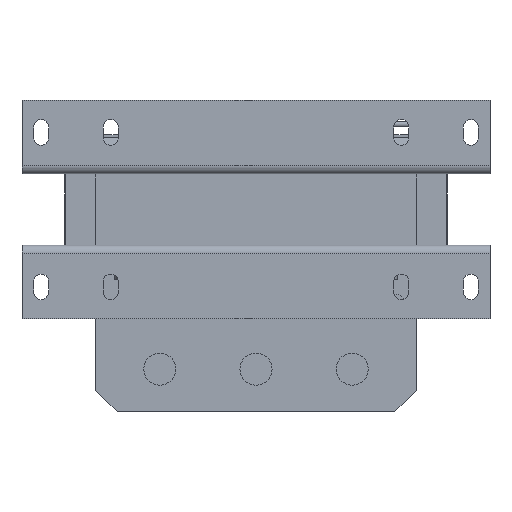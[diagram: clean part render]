
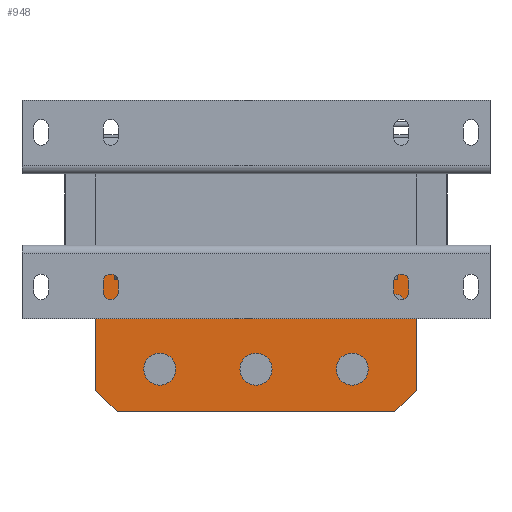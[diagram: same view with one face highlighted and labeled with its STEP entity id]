
A CAD part, front view. The second image highlights one B-rep face of the part: STEP entity #948.
In plain terms, the highlighted planar face has unit normal (0, -1, 0).
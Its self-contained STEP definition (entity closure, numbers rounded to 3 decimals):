
#102 = EDGE_CURVE ( 'NONE', #17741, #21113, #20192, .T. ) ;
#948 = ADVANCED_FACE ( 'NONE', ( #22527, #14647, #5136, #22765, #5377 ), #13016, .F. ) ;
#1091 = EDGE_CURVE ( 'NONE', #14298, #21985, #24643, .T. ) ;
#1113 = VECTOR ( 'NONE', #4612, 1000. ) ;
#1212 = EDGE_CURVE ( 'NONE', #3287, #6979, #24525, .T. ) ;
#1643 = ORIENTED_EDGE ( 'NONE', *, *, #20117, .F. ) ;
#1772 = EDGE_CURVE ( 'NONE', #24494, #21520, #10511, .T. ) ;
#1883 = DIRECTION ( 'NONE',  ( 0., 0., 1. ) ) ;
#2372 = DIRECTION ( 'NONE',  ( 0., 1., 0. ) ) ;
#2458 = DIRECTION ( 'NONE',  ( 0.707, 0., -0.707 ) ) ;
#2567 = EDGE_CURVE ( 'NONE', #17165, #14494, #14549, .T. ) ;
#2657 = DIRECTION ( 'NONE',  ( 0., 0., 1. ) ) ;
#3287 = VERTEX_POINT ( 'NONE', #4903 ) ;
#3447 = CARTESIAN_POINT ( 'NONE',  ( -65., 31., -94.65 ) ) ;
#3512 = CARTESIAN_POINT ( 'NONE',  ( 75., 31., -19.65 ) ) ;
#3589 = VERTEX_POINT ( 'NONE', #23025 ) ;
#3646 = AXIS2_PLACEMENT_3D ( 'NONE', #16301, #22076, #23964 ) ;
#3762 = AXIS2_PLACEMENT_3D ( 'NONE', #8008, #15617, #9637 ) ;
#3995 = CARTESIAN_POINT ( 'NONE',  ( -75., 31., -23.65 ) ) ;
#4081 = EDGE_CURVE ( 'NONE', #3589, #17386, #18209, .T. ) ;
#4242 = CARTESIAN_POINT ( 'NONE',  ( 65., 31., -44.65 ) ) ;
#4513 = AXIS2_PLACEMENT_3D ( 'NONE', #22356, #18345, #12237 ) ;
#4612 = DIRECTION ( 'NONE',  ( 0.707, 0., 0.707 ) ) ;
#4614 = ORIENTED_EDGE ( 'NONE', *, *, #102, .T. ) ;
#4734 = LINE ( 'NONE', #14365, #1113 ) ;
#4903 = CARTESIAN_POINT ( 'NONE',  ( 75., 31., -23.65 ) ) ;
#5131 = DIRECTION ( 'NONE',  ( 0., 0., -1. ) ) ;
#5136 = FACE_BOUND ( 'NONE', #19090, .T. ) ;
#5165 = EDGE_CURVE ( 'NONE', #3589, #6979, #4734, .T. ) ;
#5177 = DIRECTION ( 'NONE',  ( -1., 0., 0. ) ) ;
#5181 = CARTESIAN_POINT ( 'NONE',  ( -45., 31., -82.15 ) ) ;
#5377 = FACE_OUTER_BOUND ( 'NONE', #15105, .T. ) ;
#6049 = CIRCLE ( 'NONE', #9252, 7.5 ) ;
#6290 = DIRECTION ( 'NONE',  ( 0., -1., 0. ) ) ;
#6538 = CARTESIAN_POINT ( 'NONE',  ( -45., 31., -74.65 ) ) ;
#6578 = CARTESIAN_POINT ( 'NONE',  ( -75., 31., -19.65 ) ) ;
#6949 = DIRECTION ( 'NONE',  ( 0., 0., -1. ) ) ;
#6979 = VERTEX_POINT ( 'NONE', #19316 ) ;
#6990 = ORIENTED_EDGE ( 'NONE', *, *, #2567, .F. ) ;
#7266 = EDGE_LOOP ( 'NONE', ( #16505, #15352 ) ) ;
#7350 = DIRECTION ( 'NONE',  ( 0., -1., 0. ) ) ;
#8008 = CARTESIAN_POINT ( 'NONE',  ( -45., 31., -74.65 ) ) ;
#8335 = CARTESIAN_POINT ( 'NONE',  ( 69.33, 31., -42.15 ) ) ;
#8433 = ORIENTED_EDGE ( 'NONE', *, *, #17166, .T. ) ;
#8606 = DIRECTION ( 'NONE',  ( -1., 0., 0. ) ) ;
#9236 = ORIENTED_EDGE ( 'NONE', *, *, #5165, .T. ) ;
#9252 = AXIS2_PLACEMENT_3D ( 'NONE', #15678, #12196, #10316 ) ;
#9616 = ORIENTED_EDGE ( 'NONE', *, *, #1772, .F. ) ;
#9637 = DIRECTION ( 'NONE',  ( 0., 0., 1. ) ) ;
#9708 = AXIS2_PLACEMENT_3D ( 'NONE', #18293, #10800, #12312 ) ;
#9741 = ORIENTED_EDGE ( 'NONE', *, *, #1212, .F. ) ;
#10023 = ORIENTED_EDGE ( 'NONE', *, *, #13734, .F. ) ;
#10226 = CARTESIAN_POINT ( 'NONE',  ( 75., 31., -94.65 ) ) ;
#10316 = DIRECTION ( 'NONE',  ( 0., 0., 1. ) ) ;
#10394 = ORIENTED_EDGE ( 'NONE', *, *, #14208, .T. ) ;
#10511 = CIRCLE ( 'NONE', #9708, 7.5 ) ;
#10739 = CARTESIAN_POINT ( 'NONE',  ( 45., 31., -67.15 ) ) ;
#10800 = DIRECTION ( 'NONE',  ( 0., -1., 0. ) ) ;
#10893 = DIRECTION ( 'NONE',  ( 0., 1., 0. ) ) ;
#11250 = EDGE_LOOP ( 'NONE', ( #10394, #12359 ) ) ;
#11998 = EDGE_LOOP ( 'NONE', ( #6990, #10023 ) ) ;
#12196 = DIRECTION ( 'NONE',  ( 0., -1., 0. ) ) ;
#12237 = DIRECTION ( 'NONE',  ( 0., 0., 1. ) ) ;
#12312 = DIRECTION ( 'NONE',  ( 0., 0., 1. ) ) ;
#12359 = ORIENTED_EDGE ( 'NONE', *, *, #1091, .T. ) ;
#12410 = EDGE_CURVE ( 'NONE', #19894, #15289, #14439, .T. ) ;
#13016 = PLANE ( 'NONE',  #20235 ) ;
#13221 = DIRECTION ( 'NONE',  ( 0., 0., 1. ) ) ;
#13499 = EDGE_CURVE ( 'NONE', #3287, #17741, #16552, .T. ) ;
#13540 = CARTESIAN_POINT ( 'NONE',  ( 0., 31., -82.15 ) ) ;
#13572 = AXIS2_PLACEMENT_3D ( 'NONE', #22726, #7350, #13221 ) ;
#13734 = EDGE_CURVE ( 'NONE', #14494, #17165, #21680, .T. ) ;
#14208 = EDGE_CURVE ( 'NONE', #21985, #14298, #19282, .T. ) ;
#14298 = VERTEX_POINT ( 'NONE', #20470 ) ;
#14365 = CARTESIAN_POINT ( 'NONE',  ( 65., 31., -94.65 ) ) ;
#14439 = CIRCLE ( 'NONE', #3646, 7.5 ) ;
#14494 = VERTEX_POINT ( 'NONE', #5181 ) ;
#14549 = CIRCLE ( 'NONE', #3762, 7.5 ) ;
#14647 = FACE_BOUND ( 'NONE', #11998, .T. ) ;
#15007 = CARTESIAN_POINT ( 'NONE',  ( -75., 31., -84.65 ) ) ;
#15105 = EDGE_LOOP ( 'NONE', ( #9236, #9741, #24053, #4614, #8433, #19165 ) ) ;
#15119 = DIRECTION ( 'NONE',  ( 0., 0., 1. ) ) ;
#15261 = CARTESIAN_POINT ( 'NONE',  ( 45., 31., -82.15 ) ) ;
#15289 = VERTEX_POINT ( 'NONE', #15261 ) ;
#15352 = ORIENTED_EDGE ( 'NONE', *, *, #21684, .F. ) ;
#15617 = DIRECTION ( 'NONE',  ( 0., -1., 0. ) ) ;
#15678 = CARTESIAN_POINT ( 'NONE',  ( 45., 31., -74.65 ) ) ;
#16301 = CARTESIAN_POINT ( 'NONE',  ( 45., 31., -74.65 ) ) ;
#16456 = VECTOR ( 'NONE', #5177, 1000. ) ;
#16505 = ORIENTED_EDGE ( 'NONE', *, *, #12410, .F. ) ;
#16552 = LINE ( 'NONE', #16786, #16456 ) ;
#16786 = CARTESIAN_POINT ( 'NONE',  ( 75., 31., -23.65 ) ) ;
#17165 = VERTEX_POINT ( 'NONE', #23483 ) ;
#17166 = EDGE_CURVE ( 'NONE', #21113, #17386, #21600, .T. ) ;
#17205 = VECTOR ( 'NONE', #8606, 1000. ) ;
#17331 = CARTESIAN_POINT ( 'NONE',  ( -75., 31., -84.65 ) ) ;
#17386 = VERTEX_POINT ( 'NONE', #3447 ) ;
#17741 = VERTEX_POINT ( 'NONE', #3995 ) ;
#18209 = LINE ( 'NONE', #10226, #17205 ) ;
#18293 = CARTESIAN_POINT ( 'NONE',  ( 0., 31., -74.65 ) ) ;
#18345 = DIRECTION ( 'NONE',  ( 0., 1., 0. ) ) ;
#18746 = CIRCLE ( 'NONE', #13572, 7.5 ) ;
#19090 = EDGE_LOOP ( 'NONE', ( #1643, #9616 ) ) ;
#19165 = ORIENTED_EDGE ( 'NONE', *, *, #4081, .F. ) ;
#19282 = CIRCLE ( 'NONE', #4513, 5. ) ;
#19316 = CARTESIAN_POINT ( 'NONE',  ( 75., 31., -84.65 ) ) ;
#19433 = AXIS2_PLACEMENT_3D ( 'NONE', #4242, #2372, #1883 ) ;
#19670 = AXIS2_PLACEMENT_3D ( 'NONE', #6538, #6290, #2657 ) ;
#19894 = VERTEX_POINT ( 'NONE', #10739 ) ;
#20117 = EDGE_CURVE ( 'NONE', #21520, #24494, #18746, .T. ) ;
#20192 = LINE ( 'NONE', #6578, #20585 ) ;
#20214 = VECTOR ( 'NONE', #2458, 1000. ) ;
#20235 = AXIS2_PLACEMENT_3D ( 'NONE', #3512, #10893, #15119 ) ;
#20470 = CARTESIAN_POINT ( 'NONE',  ( 60.67, 31., -47.15 ) ) ;
#20585 = VECTOR ( 'NONE', #6949, 1000. ) ;
#20699 = CARTESIAN_POINT ( 'NONE',  ( 0., 31., -67.15 ) ) ;
#21113 = VERTEX_POINT ( 'NONE', #15007 ) ;
#21520 = VERTEX_POINT ( 'NONE', #20699 ) ;
#21600 = LINE ( 'NONE', #17331, #20214 ) ;
#21680 = CIRCLE ( 'NONE', #19670, 7.5 ) ;
#21684 = EDGE_CURVE ( 'NONE', #15289, #19894, #6049, .T. ) ;
#21985 = VERTEX_POINT ( 'NONE', #8335 ) ;
#22076 = DIRECTION ( 'NONE',  ( 0., -1., 0. ) ) ;
#22270 = CARTESIAN_POINT ( 'NONE',  ( 75., 31., -19.65 ) ) ;
#22356 = CARTESIAN_POINT ( 'NONE',  ( 65., 31., -44.65 ) ) ;
#22527 = FACE_BOUND ( 'NONE', #11250, .T. ) ;
#22726 = CARTESIAN_POINT ( 'NONE',  ( 0., 31., -74.65 ) ) ;
#22765 = FACE_BOUND ( 'NONE', #7266, .T. ) ;
#22820 = VECTOR ( 'NONE', #5131, 1000. ) ;
#23025 = CARTESIAN_POINT ( 'NONE',  ( 65., 31., -94.65 ) ) ;
#23483 = CARTESIAN_POINT ( 'NONE',  ( -45., 31., -67.15 ) ) ;
#23964 = DIRECTION ( 'NONE',  ( 0., 0., 1. ) ) ;
#24053 = ORIENTED_EDGE ( 'NONE', *, *, #13499, .T. ) ;
#24494 = VERTEX_POINT ( 'NONE', #13540 ) ;
#24525 = LINE ( 'NONE', #22270, #22820 ) ;
#24643 = CIRCLE ( 'NONE', #19433, 5. ) ;
